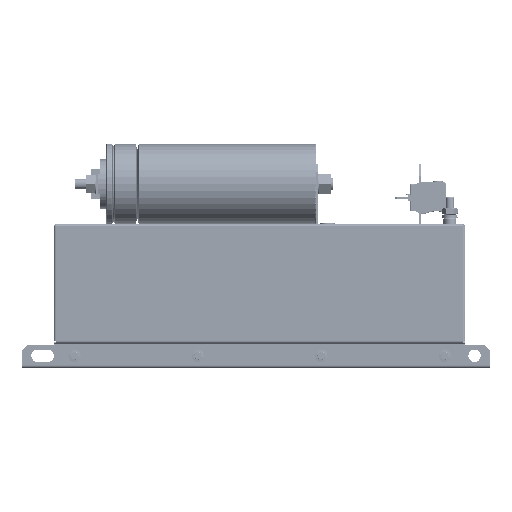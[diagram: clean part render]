
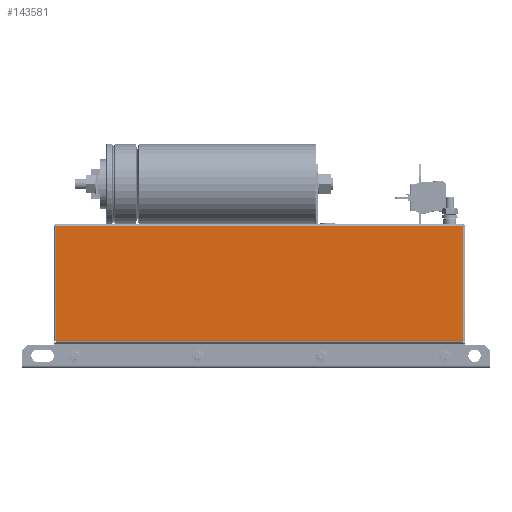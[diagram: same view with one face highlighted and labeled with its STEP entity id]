
A CAD part, left-side view. The second image highlights one B-rep face of the part: STEP entity #143581.
In plain terms, the highlighted planar face has unit normal (-1, 0, 0).
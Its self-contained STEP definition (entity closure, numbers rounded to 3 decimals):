
#5891=PLANE('',#157375);
#13646=FACE_OUTER_BOUND('',#22150,.T.);
#22150=EDGE_LOOP('',(#121139,#121140,#121141,#121142));
#40592=LINE('',#245968,#52843);
#40797=LINE('',#246503,#53048);
#40855=LINE('',#247043,#53106);
#40856=LINE('',#247044,#53107);
#52843=VECTOR('',#194984,10.);
#53048=VECTOR('',#195385,10.);
#53106=VECTOR('',#195525,10.);
#53107=VECTOR('',#195526,10.);
#65202=VERTEX_POINT('',#245961);
#65205=VERTEX_POINT('',#245966);
#65371=VERTEX_POINT('',#246491);
#65430=VERTEX_POINT('',#247042);
#84042=EDGE_CURVE('',#65202,#65205,#40592,.T.);
#84278=EDGE_CURVE('',#65205,#65371,#40797,.T.);
#84368=EDGE_CURVE('',#65202,#65430,#40855,.T.);
#84369=EDGE_CURVE('',#65430,#65371,#40856,.T.);
#121139=ORIENTED_EDGE('',*,*,#84368,.F.);
#121140=ORIENTED_EDGE('',*,*,#84042,.T.);
#121141=ORIENTED_EDGE('',*,*,#84278,.T.);
#121142=ORIENTED_EDGE('',*,*,#84369,.F.);
#143581=ADVANCED_FACE('',(#13646),#5891,.F.);
#157375=AXIS2_PLACEMENT_3D('',#247041,#195523,#195524);
#194984=DIRECTION('',(0.,1.,0.));
#195385=DIRECTION('',(0.,0.,-1.));
#195523=DIRECTION('center_axis',(1.,0.,0.));
#195524=DIRECTION('ref_axis',(0.,0.,
-1.));
#195525=DIRECTION('',(0.,0.,-1.));
#195526=DIRECTION('',(0.,1.,0.));
#245961=CARTESIAN_POINT('',(-140.861,-216.501,127.261));
#245966=CARTESIAN_POINT('',(-140.861,178.899,127.261));
#245968=CARTESIAN_POINT('',(-140.861,181.199,127.261));
#246491=CARTESIAN_POINT('',(-140.861,178.899,16.013));
#246503=CARTESIAN_POINT('',(-140.861,178.899,65.161));
#247041=CARTESIAN_POINT('Origin',(-140.861,-218.801,15.061));
#247042=CARTESIAN_POINT('',(-140.861,-216.501,16.013));
#247043=CARTESIAN_POINT('',(-140.861,-216.501,115.271));
#247044=CARTESIAN_POINT('',(-140.861,-218.801,16.013));
